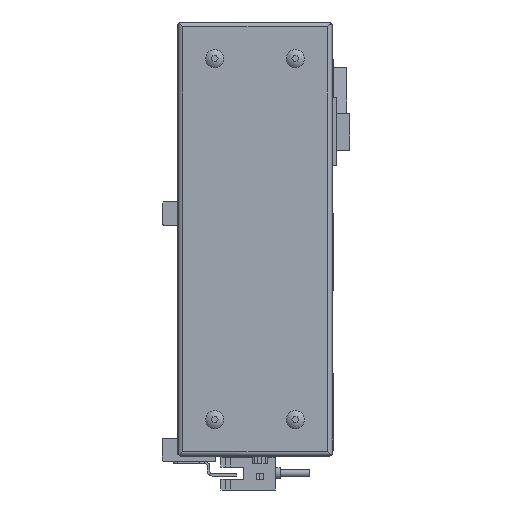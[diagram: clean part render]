
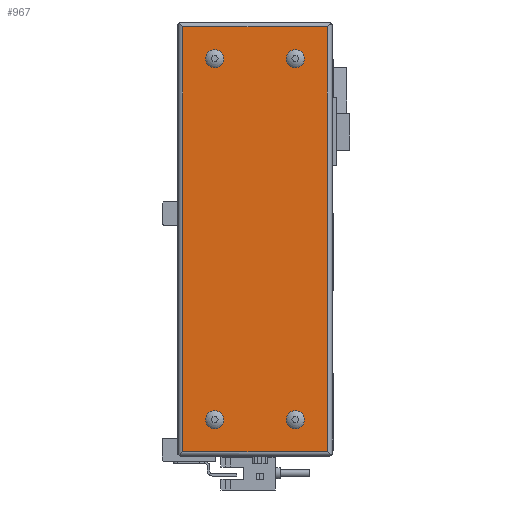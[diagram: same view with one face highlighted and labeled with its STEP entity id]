
A CAD part, left-side view. The second image highlights one B-rep face of the part: STEP entity #967.
In plain terms, the highlighted planar face has unit normal (-1, 0, 0).
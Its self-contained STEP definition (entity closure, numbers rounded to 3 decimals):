
#967 = ADVANCED_FACE( '', ( #2535, #2536, #2537, #2538, #2539 ), #2540, .F. );
#2535 = FACE_BOUND( '', #4940, .T. );
#2536 = FACE_BOUND( '', #4941, .T. );
#2537 = FACE_BOUND( '', #4942, .T. );
#2538 = FACE_BOUND( '', #4943, .T. );
#2539 = FACE_OUTER_BOUND( '', #4944, .T. );
#2540 = PLANE( '', #4945 );
#4940 = EDGE_LOOP( '', ( #7541 ) );
#4941 = EDGE_LOOP( '', ( #7542 ) );
#4942 = EDGE_LOOP( '', ( #7543 ) );
#4943 = EDGE_LOOP( '', ( #7544 ) );
#4944 = EDGE_LOOP( '', ( #7545, #7546, #7547, #7548 ) );
#4945 = AXIS2_PLACEMENT_3D( '', #7549, #7550, #7551 );
#7541 = ORIENTED_EDGE( '', *, *, #14017, .F. );
#7542 = ORIENTED_EDGE( '', *, *, #14018, .F. );
#7543 = ORIENTED_EDGE( '', *, *, #14019, .F. );
#7544 = ORIENTED_EDGE( '', *, *, #14020, .F. );
#7545 = ORIENTED_EDGE( '', *, *, #14021, .F. );
#7546 = ORIENTED_EDGE( '', *, *, #14022, .F. );
#7547 = ORIENTED_EDGE( '', *, *, #14023, .T. );
#7548 = ORIENTED_EDGE( '', *, *, #14024, .T. );
#7549 = CARTESIAN_POINT( '', ( -52., 0., 0. ) );
#7550 = DIRECTION( '', ( 1., 0., 0. ) );
#7551 = DIRECTION( '', ( 0., 0., -1. ) );
#14017 = EDGE_CURVE( '', #16753, #16753, #16754, .F. );
#14018 = EDGE_CURVE( '', #16755, #16755, #16756, .F. );
#14019 = EDGE_CURVE( '', #16757, #16757, #16758, .F. );
#14020 = EDGE_CURVE( '', #16759, #16759, #16760, .F. );
#14021 = EDGE_CURVE( '', #16761, #16762, #16763, .T. );
#14022 = EDGE_CURVE( '', #16764, #16761, #16765, .T. );
#14023 = EDGE_CURVE( '', #16764, #16766, #16767, .T. );
#14024 = EDGE_CURVE( '', #16766, #16762, #16768, .T. );
#16753 = VERTEX_POINT( '', #20778 );
#16754 = CIRCLE( '', #20779, 3.7 );
#16755 = VERTEX_POINT( '', #20780 );
#16756 = CIRCLE( '', #20781, 3.7 );
#16757 = VERTEX_POINT( '', #20782 );
#16758 = CIRCLE( '', #20783, 3.7 );
#16759 = VERTEX_POINT( '', #20784 );
#16760 = CIRCLE( '', #20785, 3.7 );
#16761 = VERTEX_POINT( '', #20786 );
#16762 = VERTEX_POINT( '', #20787 );
#16763 = LINE( '', #20788, #20789 );
#16764 = VERTEX_POINT( '', #20790 );
#16765 = LINE( '', #20791, #20792 );
#16766 = VERTEX_POINT( '', #20793 );
#16767 = LINE( '', #20794, #20795 );
#16768 = LINE( '', #20796, #20797 );
#20778 = CARTESIAN_POINT( '', ( -52., 15.5, 107.8 ) );
#20779 = AXIS2_PLACEMENT_3D( '', #26128, #26129, #26130 );
#20780 = CARTESIAN_POINT( '', ( -52., 15.5, -39.7 ) );
#20781 = AXIS2_PLACEMENT_3D( '', #26131, #26132, #26133 );
#20782 = CARTESIAN_POINT( '', ( -52., 48.5, 107.8 ) );
#20783 = AXIS2_PLACEMENT_3D( '', #26134, #26135, #26136 );
#20784 = CARTESIAN_POINT( '', ( -52., 48.5, -39.7 ) );
#20785 = AXIS2_PLACEMENT_3D( '', #26137, #26138, #26139 );
#20786 = CARTESIAN_POINT( '', ( -52., 2.5, 124.5 ) );
#20787 = CARTESIAN_POINT( '', ( -52., 2.5, -49. ) );
#20788 = CARTESIAN_POINT( '', ( -52., 2.5, 177.5 ) );
#20789 = VECTOR( '', #26140, 1000. );
#20790 = CARTESIAN_POINT( '', ( -52., 61.5, 124.5 ) );
#20791 = CARTESIAN_POINT( '', ( -52., 177.5, 124.5 ) );
#20792 = VECTOR( '', #26141, 1000. );
#20793 = CARTESIAN_POINT( '', ( -52., 61.5, -49. ) );
#20794 = CARTESIAN_POINT( '', ( -52., 61.5, 177.5 ) );
#20795 = VECTOR( '', #26142, 1000. );
#20796 = CARTESIAN_POINT( '', ( -52., 177.5, -49. ) );
#20797 = VECTOR( '', #26143, 1000. );
#26128 = CARTESIAN_POINT( '', ( -52., 15.5, 111.5 ) );
#26129 = DIRECTION( '', ( 1., 0., 0. ) );
#26130 = DIRECTION( '', ( 0., 0., -1. ) );
#26131 = CARTESIAN_POINT( '', ( -52., 15.5, -36. ) );
#26132 = DIRECTION( '', ( 1., 0., 0. ) );
#26133 = DIRECTION( '', ( 0., 0., -1. ) );
#26134 = CARTESIAN_POINT( '', ( -52., 48.5, 111.5 ) );
#26135 = DIRECTION( '', ( 1., 0., 0. ) );
#26136 = DIRECTION( '', ( 0., 0., -1. ) );
#26137 = CARTESIAN_POINT( '', ( -52., 48.5, -36. ) );
#26138 = DIRECTION( '', ( 1., 0., 0. ) );
#26139 = DIRECTION( '', ( 0., 0., -1. ) );
#26140 = DIRECTION( '', ( 0., 0., -1. ) );
#26141 = DIRECTION( '', ( 0., -1., 0. ) );
#26142 = DIRECTION( '', ( 0., 0., -1. ) );
#26143 = DIRECTION( '', ( 0., -1., 0. ) );
